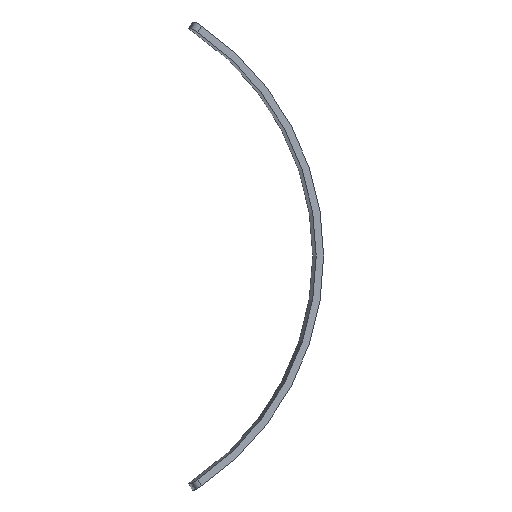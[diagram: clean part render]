
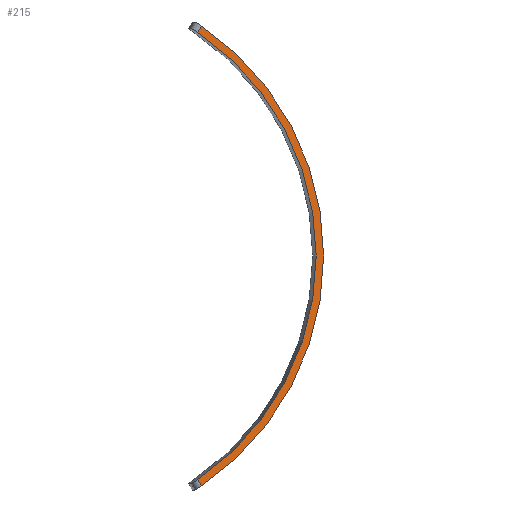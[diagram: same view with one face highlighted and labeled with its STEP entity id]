
A CAD part, left-side view. The second image highlights one B-rep face of the part: STEP entity #215.
In plain terms, the highlighted planar face has unit normal (-0.997, -0.079, 0).
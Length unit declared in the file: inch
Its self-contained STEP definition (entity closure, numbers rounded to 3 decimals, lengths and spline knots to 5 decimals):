
#8 = EDGE_CURVE ( 'NONE', #525, #331, #282, .T. ) ;
#43 = CARTESIAN_POINT ( 'NONE',  ( 7.99044, -139.76468, -30.21722 ) ) ;
#63 = DIRECTION ( 'NONE',  ( -0.078, 0.997, 0. ) ) ;
#67 = VERTEX_POINT ( 'NONE', #295 ) ;
#68 = CARTESIAN_POINT ( 'NONE',  ( 6.39532, -119.49668, 0. ) ) ;
#85 = AXIS2_PLACEMENT_3D ( 'NONE', #189, #396, #440 ) ;
#103 = LINE ( 'NONE', #434, #198 ) ;
#108 = DIRECTION ( 'NONE',  ( -0.997, -0.078, 0. ) ) ;
#111 = EDGE_CURVE ( 'NONE', #491, #331, #103, .T. ) ;
#165 = CARTESIAN_POINT ( 'NONE',  ( 6.39532, -119.49668, 0. ) ) ;
#166 = AXIS2_PLACEMENT_3D ( 'NONE', #68, #108, #326 ) ;
#174 = CIRCLE ( 'NONE', #85, 36.42 ) ;
#189 = CARTESIAN_POINT ( 'NONE',  ( 6.39532, -119.49668, 0. ) ) ;
#198 = VECTOR ( 'NONE', #341, 39.37008 ) ;
#204 = ORIENTED_EDGE ( 'NONE', *, *, #111, .T. ) ;
#212 = LINE ( 'NONE', #292, #265 ) ;
#215 = ADVANCED_FACE ( 'NONE', ( #371 ), #449, .T. ) ;
#239 = EDGE_CURVE ( 'NONE', #525, #67, #212, .T. ) ;
#265 = VECTOR ( 'NONE', #459, 39.37008 ) ;
#282 = CIRCLE ( 'NONE', #314, 37.42 ) ;
#292 = CARTESIAN_POINT ( 'NONE',  ( 6.46159, -120.33878, -0.53524 ) ) ;
#295 = CARTESIAN_POINT ( 'NONE',  ( 7.99044, -139.76468, 30.21722 ) ) ;
#314 = AXIS2_PLACEMENT_3D ( 'NONE', #165, #328, #63 ) ;
#326 = DIRECTION ( 'NONE',  ( 0.078, -0.997, 0. ) ) ;
#328 = DIRECTION ( 'NONE',  ( 0.997, 0.078, 0. ) ) ;
#331 = VERTEX_POINT ( 'NONE', #349 ) ;
#333 = EDGE_CURVE ( 'NONE', #67, #491, #174, .T. ) ;
#341 = DIRECTION ( 'NONE',  ( 0.042, -0.534, -0.845 ) ) ;
#347 = ORIENTED_EDGE ( 'NONE', *, *, #239, .T. ) ;
#349 = CARTESIAN_POINT ( 'NONE',  ( 8.03245, -140.29846, -31.06223 ) ) ;
#371 = FACE_OUTER_BOUND ( 'NONE', #499, .T. ) ;
#385 = CARTESIAN_POINT ( 'NONE',  ( 8.03245, -140.29846, 31.06223 ) ) ;
#396 = DIRECTION ( 'NONE',  ( 0.997, 0.078, 0. ) ) ;
#410 = ORIENTED_EDGE ( 'NONE', *, *, #333, .T. ) ;
#434 = CARTESIAN_POINT ( 'NONE',  ( 6.46159, -120.33878, 0.53524 ) ) ;
#440 = DIRECTION ( 'NONE',  ( -0.078, 0.997, 0. ) ) ;
#449 = PLANE ( 'NONE',  #166 ) ;
#459 = DIRECTION ( 'NONE',  ( -0.042, 0.534, -0.845 ) ) ;
#482 = ORIENTED_EDGE ( 'NONE', *, *, #8, .F. ) ;
#491 = VERTEX_POINT ( 'NONE', #43 ) ;
#499 = EDGE_LOOP ( 'NONE', ( #410, #204, #482, #347 ) ) ;
#525 = VERTEX_POINT ( 'NONE', #385 ) ;
